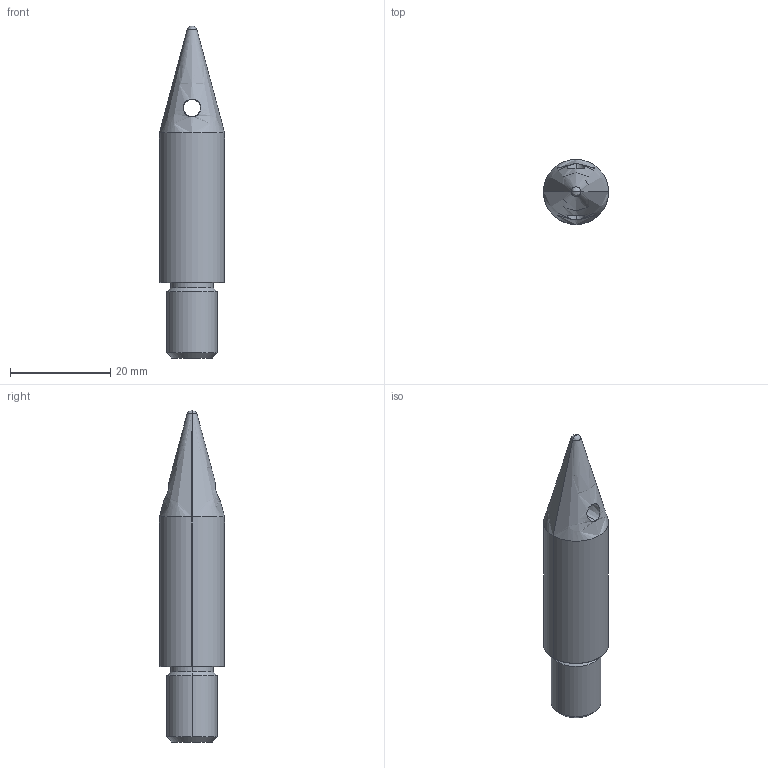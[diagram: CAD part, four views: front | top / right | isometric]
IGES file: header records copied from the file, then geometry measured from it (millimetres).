
Global section: file name: E:\UnigraphicsGraphicData\MISUMI_PRESS-PARTS\IGES\3d_sltlh14-p13.00-b30_02953_r00.igs; native system: NX V5.0; preprocessor: UGS NX IGES V5.0; author: MISUMI; date: 20110105.162834; units: millimetre
Bounding box: 13 x 13 x 66.39 mm (x, y, z)
Surface area: 2427.8 mm2 (no closed solid volume)
Topology: 0 solids, 0 shells, 20 faces, 124 edges, 122 vertices
Faces by surface type: bspline 20
